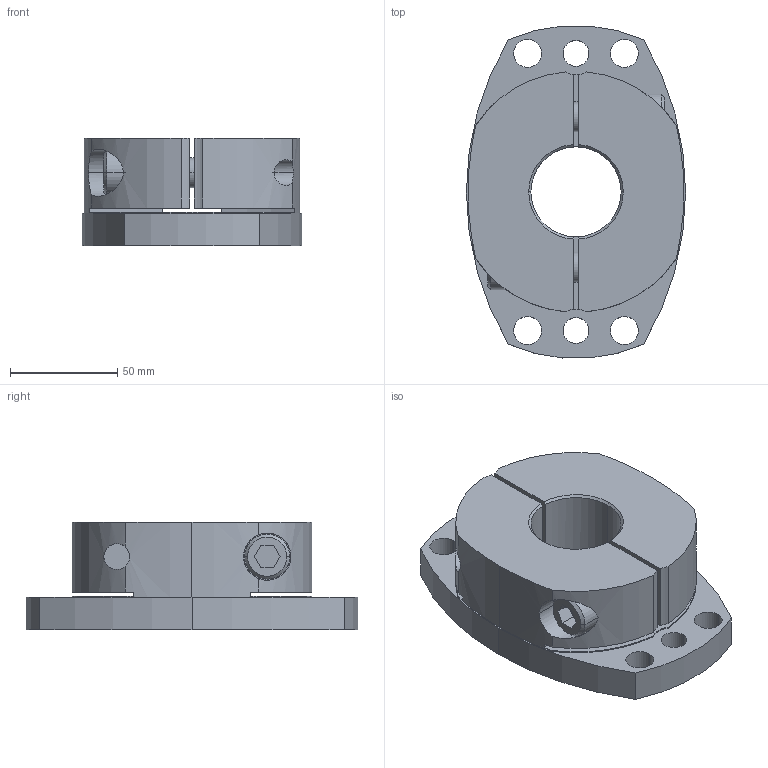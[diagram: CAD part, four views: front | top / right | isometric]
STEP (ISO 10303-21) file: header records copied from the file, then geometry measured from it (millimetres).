
FILE_DESCRIPTION((''),'2;1');
FILE_NAME('SHDB-155B-42.stp','2026-01-28T08:59:09',(''),(''),'AutoCAD STEP 2000i','AutoCAD 2000i',', , ');
FILE_SCHEMA(('CONFIG_CONTROL_DESIGN'));
Length unit declared in the file: millimetre
Products named in the file (2): SHDB-155B-35; 忣兜1
Assembly tree (1 placements, depth 2):
  SHDB-155B-35
    忣兜1
Bounding box: 102 x 154.46 x 50 mm (x, y, z)
Volume: 421465.3 mm3; surface area: 70820.9 mm2
Topology: 1 solids, 1 shells, 102 faces, 280 edges, 184 vertices
Faces by surface type: cylinder 58, plane 34, cone 10
Entity records: 3723 total; most frequent: CARTESIAN_POINT 896, DIRECTION 602, ORIENTED_EDGE 560, EDGE_CURVE 280, AXIS2_PLACEMENT_3D 238, VERTEX_POINT 184, CIRCLE 134, VECTOR 126
